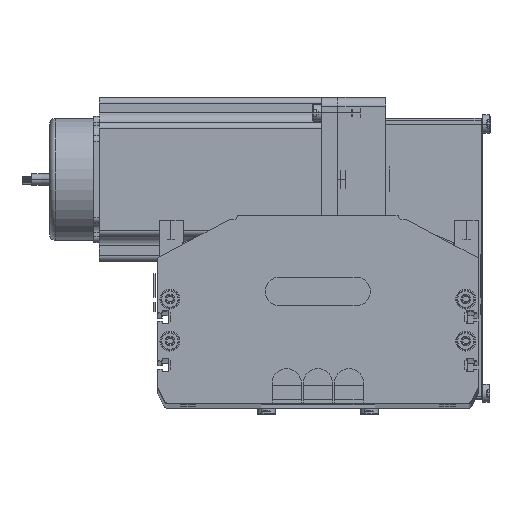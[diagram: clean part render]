
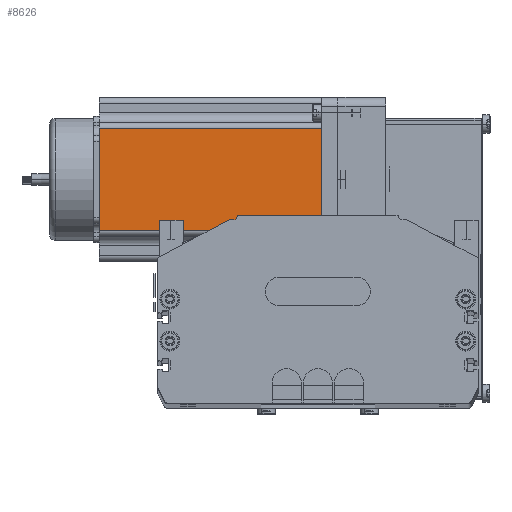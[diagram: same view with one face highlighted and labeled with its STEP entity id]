
A CAD part, top view. The second image highlights one B-rep face of the part: STEP entity #8626.
In plain terms, the highlighted planar face has unit normal (0, 0, 1) as drawn and (0, -1, 0) by its records, which use the part's own axes.
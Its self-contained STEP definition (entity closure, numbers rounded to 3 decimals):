
#8554 = ORIENTED_EDGE ( 'NONE', *, *, #8556, .T. ) ;
#8555 = ORIENTED_EDGE ( 'NONE', *, *, #8614, .T. ) ;
#8556 = EDGE_CURVE ( 'NONE', #8623, #8558, #41678, .T. ) ;
#8558 = VERTEX_POINT ( 'NONE', #41662 ) ;
#8559 = EDGE_CURVE ( 'NONE', #8560, #8558, #41656, .T. ) ;
#8560 = VERTEX_POINT ( 'NONE', #41658 ) ;
#8562 = EDGE_CURVE ( 'NONE', #8560, #8622, #41648, .T. ) ;
#8585 = ORIENTED_EDGE ( 'NONE', *, *, #8562, .T. ) ;
#8614 = EDGE_CURVE ( 'NONE', #8622, #8623, #41385, .T. ) ;
#8618 = ORIENTED_EDGE ( 'NONE', *, *, #8559, .F. ) ;
#8622 = VERTEX_POINT ( 'NONE', #42106 ) ;
#8623 = VERTEX_POINT ( 'NONE', #41946 ) ;
#8626 = ADVANCED_FACE ( 'NONE', ( #42089 ), #41945, .F. ) ;
#8633 = EDGE_LOOP ( 'NONE', ( #8555, #8554, #8618, #8585 ) ) ;
#41385 = LINE ( 'NONE', #41396, #41832 ) ;
#41396 = CARTESIAN_POINT ( 'NONE',  ( 0., 0., 0. ) ) ;
#41645 = DIRECTION ( 'NONE',  ( 0., 0., -1. ) ) ;
#41646 = VECTOR ( 'NONE', #41645, 1000. ) ;
#41647 = CARTESIAN_POINT ( 'NONE',  ( 16.16, 0., 116.5 ) ) ;
#41648 = LINE ( 'NONE', #41647, #41646 ) ;
#41653 = DIRECTION ( 'NONE',  ( 1., 0., 0. ) ) ;
#41654 = VECTOR ( 'NONE', #41653, 1000. ) ;
#41655 = CARTESIAN_POINT ( 'NONE',  ( 0., 0., 116.5 ) ) ;
#41656 = LINE ( 'NONE', #41655, #41654 ) ;
#41658 = CARTESIAN_POINT ( 'NONE',  ( 16.16, 0., 116.5 ) ) ;
#41662 = CARTESIAN_POINT ( 'NONE',  ( 69.74, 0., 116.5 ) ) ;
#41663 = DIRECTION ( 'NONE',  ( 0., 0., 1. ) ) ;
#41678 = LINE ( 'NONE', #41845, #41844 ) ;
#41832 = VECTOR ( 'NONE', #41840, 1000. ) ;
#41840 = DIRECTION ( 'NONE',  ( 1., 0., 0. ) ) ;
#41844 = VECTOR ( 'NONE', #41663, 1000. ) ;
#41845 = CARTESIAN_POINT ( 'NONE',  ( 69.74, 0., 116.5 ) ) ;
#41941 = DIRECTION ( 'NONE',  ( 0., 0., 1. ) ) ;
#41942 = DIRECTION ( 'NONE',  ( 0., 1., 0. ) ) ;
#41945 = PLANE ( 'NONE',  #41953 ) ;
#41946 = CARTESIAN_POINT ( 'NONE',  ( 69.74, 0., 0. ) ) ;
#41953 = AXIS2_PLACEMENT_3D ( 'NONE', #41955, #41942, #41941 ) ;
#41955 = CARTESIAN_POINT ( 'NONE',  ( 0., 0., 116.5 ) ) ;
#42089 = FACE_OUTER_BOUND ( 'NONE', #8633, .T. ) ;
#42106 = CARTESIAN_POINT ( 'NONE',  ( 16.16, 0., 0. ) ) ;
